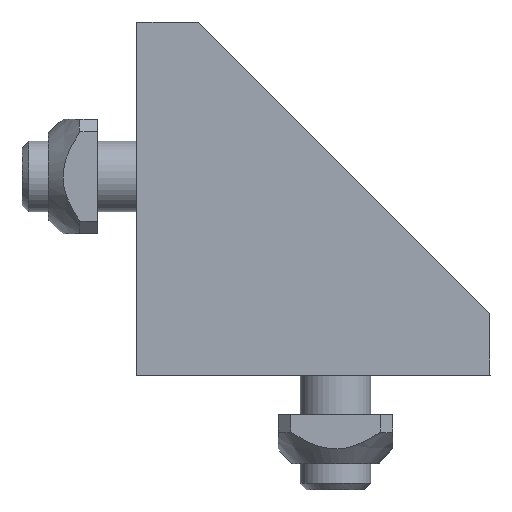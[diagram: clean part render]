
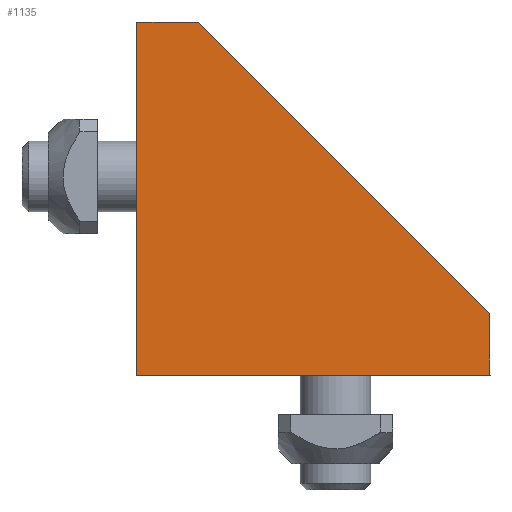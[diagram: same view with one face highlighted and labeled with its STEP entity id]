
A CAD part, front view. The second image highlights one B-rep face of the part: STEP entity #1135.
In plain terms, the highlighted planar face has unit normal (0, -1, 0).
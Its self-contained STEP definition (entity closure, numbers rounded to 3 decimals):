
#661=CARTESIAN_POINT('',(40.,-9.5,0.));
#662=VERTEX_POINT('',#661);
#669=CARTESIAN_POINT('',(0.,-9.5,0.));
#670=VERTEX_POINT('',#669);
#671=CARTESIAN_POINT('',(0.,-9.5,0.));
#672=DIRECTION('',(1.0,0.0,0.0));
#673=VECTOR('',#672,40.);
#674=LINE('',#671,#673);
#675=EDGE_CURVE('',#662,#670,#674,.F.);
#808=CARTESIAN_POINT('',(0.,-9.5,40.));
#809=VERTEX_POINT('',#808);
#810=CARTESIAN_POINT('',(0.,-9.5,0.));
#811=DIRECTION('',(0.0,0.0,1.0));
#812=VECTOR('',#811,40.);
#813=LINE('',#810,#812);
#814=EDGE_CURVE('',#670,#809,#813,.T.);
#959=CARTESIAN_POINT('',(7.,-9.5,40.));
#960=VERTEX_POINT('',#959);
#961=CARTESIAN_POINT('',(40.,-9.5,7.));
#962=VERTEX_POINT('',#961);
#963=CARTESIAN_POINT('',(7.,-9.5,40.));
#964=DIRECTION('',(0.707,0.,-0.707));
#965=VECTOR('',#964,46.669);
#966=LINE('',#963,#965);
#967=EDGE_CURVE('',#960,#962,#966,.T.);
#1091=CARTESIAN_POINT('',(0.,-9.5,40.));
#1092=DIRECTION('',(1.0,0.0,0.0));
#1093=VECTOR('',#1092,7.);
#1094=LINE('',#1091,#1093);
#1095=EDGE_CURVE('',#809,#960,#1094,.T.);
#1118=CARTESIAN_POINT('',(0.,-9.5,7.));
#1119=DIRECTION('',(0.0,-1.0,0.0));
#1120=DIRECTION('',(0.0,0.0,-1.0));
#1121=AXIS2_PLACEMENT_3D('',#1118,#1119,#1120);
#1122=PLANE('',#1121);
#1123=ORIENTED_EDGE('',*,*,#675,.F.);
#1124=CARTESIAN_POINT('',(40.,-9.5,7.));
#1125=DIRECTION('',(0.0,0.0,-1.0));
#1126=VECTOR('',#1125,7.);
#1127=LINE('',#1124,#1126);
#1128=EDGE_CURVE('',#962,#662,#1127,.T.);
#1129=ORIENTED_EDGE('',*,*,#1128,.F.);
#1130=ORIENTED_EDGE('',*,*,#967,.F.);
#1131=ORIENTED_EDGE('',*,*,#1095,.F.);
#1132=ORIENTED_EDGE('',*,*,#814,.F.);
#1133=EDGE_LOOP('',(#1123,#1129,#1130,#1131,#1132));
#1134=FACE_OUTER_BOUND('',#1133,.T.);
#1135=ADVANCED_FACE('',(#1134),#1122,.T.);
